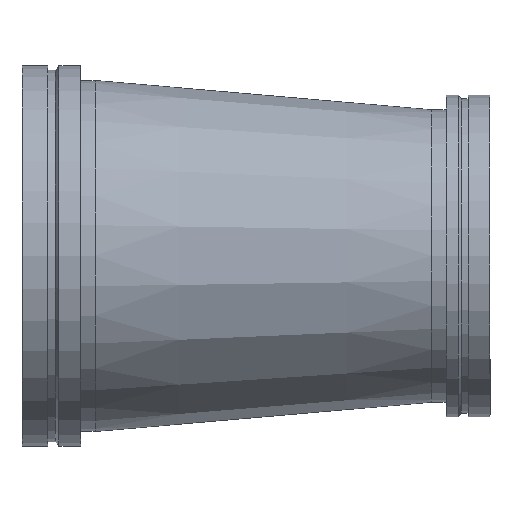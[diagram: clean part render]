
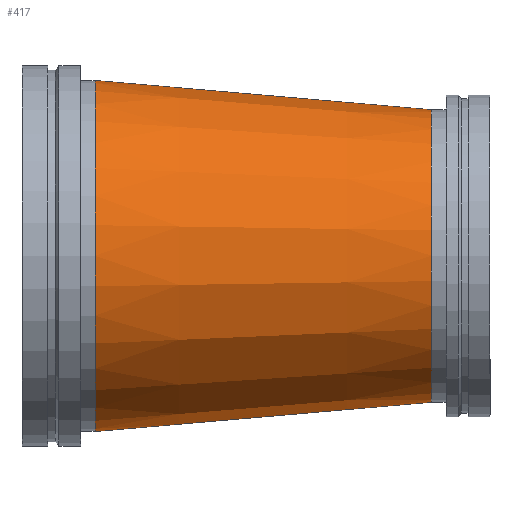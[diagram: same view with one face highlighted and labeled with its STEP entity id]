
A CAD part, top view. The second image highlights one B-rep face of the part: STEP entity #417.
In plain terms, the highlighted conical face has half-angle 4.97 degrees and reference radius 279.4 mm.
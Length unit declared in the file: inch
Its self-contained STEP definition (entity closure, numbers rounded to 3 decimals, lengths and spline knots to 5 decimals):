
#46=CONICAL_SURFACE('',#475,11.,0.087);
#54=LINE('',#739,#68);
#68=VECTOR('',#587,11.);
#101=FACE_OUTER_BOUND('',#124,.T.);
#124=EDGE_LOOP('',(#315,#316,#317,#318,#319,#320));
#155=CIRCLE('',#473,12.);
#156=CIRCLE('',#474,12.);
#157=CIRCLE('',#476,10.);
#158=CIRCLE('',#477,10.);
#195=VERTEX_POINT('',#729);
#196=VERTEX_POINT('',#730);
#197=VERTEX_POINT('',#735);
#198=VERTEX_POINT('',#736);
#239=EDGE_CURVE('',#195,#196,#155,.T.);
#240=EDGE_CURVE('',#196,#195,#156,.T.);
#242=EDGE_CURVE('',#197,#198,#157,.T.);
#243=EDGE_CURVE('',#198,#197,#158,.T.);
#244=EDGE_CURVE('',#198,#196,#54,.T.);
#315=ORIENTED_EDGE('',*,*,#242,.F.);
#316=ORIENTED_EDGE('',*,*,#243,.F.);
#317=ORIENTED_EDGE('',*,*,#244,.T.);
#318=ORIENTED_EDGE('',*,*,#240,.T.);
#319=ORIENTED_EDGE('',*,*,#239,.T.);
#320=ORIENTED_EDGE('',*,*,#244,.F.);
#417=ADVANCED_FACE('',(#101),#46,.T.);
#473=AXIS2_PLACEMENT_3D('',#731,#576,#577);
#474=AXIS2_PLACEMENT_3D('',#732,#578,#579);
#475=AXIS2_PLACEMENT_3D('',#734,#581,#582);
#476=AXIS2_PLACEMENT_3D('',#737,#583,#584);
#477=AXIS2_PLACEMENT_3D('',#738,#585,#586);
#576=DIRECTION('center_axis',(1.,0.,0.));
#577=DIRECTION('ref_axis',(0.,0.,-1.));
#578=DIRECTION('center_axis',(1.,0.,0.));
#579=DIRECTION('ref_axis',(0.,0.,-1.));
#581=DIRECTION('center_axis',(-1.,0.,0.));
#582=DIRECTION('ref_axis',(0.,1.,0.));
#583=DIRECTION('center_axis',(1.,0.,0.));
#584=DIRECTION('ref_axis',(0.,0.,-1.));
#585=DIRECTION('center_axis',(1.,0.,0.));
#586=DIRECTION('ref_axis',(0.,0.,-1.));
#587=DIRECTION('',(-0.996,-0.087,0.));
#729=CARTESIAN_POINT('',(5.,12.,0.));
#730=CARTESIAN_POINT('',(5.,-12.,0.));
#731=CARTESIAN_POINT('Origin',(5.,0.,0.));
#732=CARTESIAN_POINT('Origin',(5.,0.,0.));
#734=CARTESIAN_POINT('Origin',(16.5,0.,0.));
#735=CARTESIAN_POINT('',(28.,10.,0.));
#736=CARTESIAN_POINT('',(28.,-10.,0.));
#737=CARTESIAN_POINT('Origin',(28.,0.,0.));
#738=CARTESIAN_POINT('Origin',(28.,0.,0.));
#739=CARTESIAN_POINT('',(16.5,-11.,0.));
